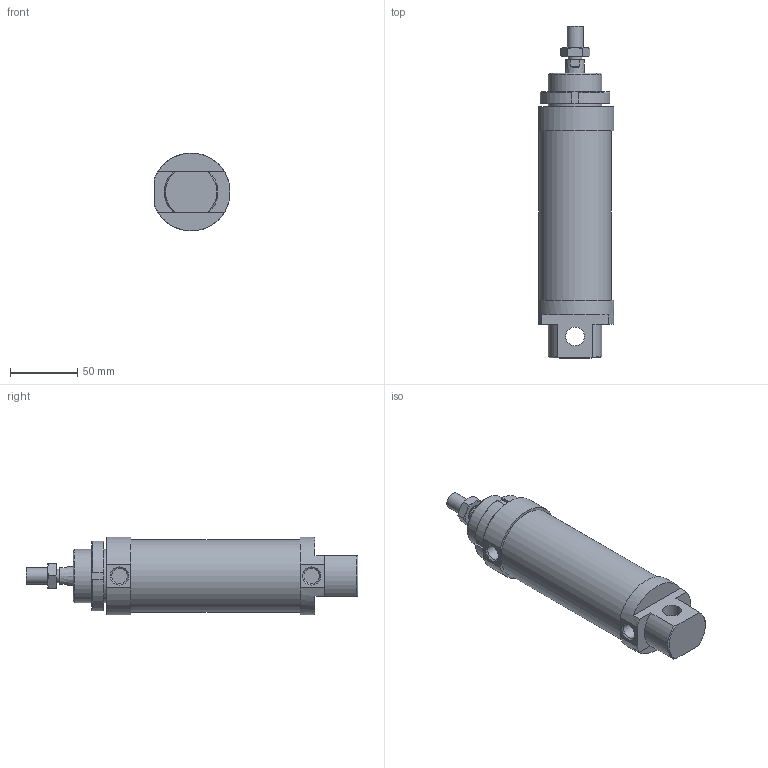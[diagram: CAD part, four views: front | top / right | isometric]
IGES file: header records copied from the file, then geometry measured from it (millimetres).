
Global section: file name: No Iges File Name specified; native system: AutoDesk Inventor R6.0; preprocessor: AutoDesk Inventor Iges Exporter R6.0; author: No Author specified; organization: No Organization specified; date: 20030402.144920; units: millimetre
Bounding box: 56.51 x 247 x 58 mm (x, y, z)
Surface area: 59613.9 mm2 (no closed solid volume)
Topology: 0 solids, 0 shells, 94 faces, 413 edges, 395 vertices
Faces by surface type: plane 44, revolution 39, bspline 11
